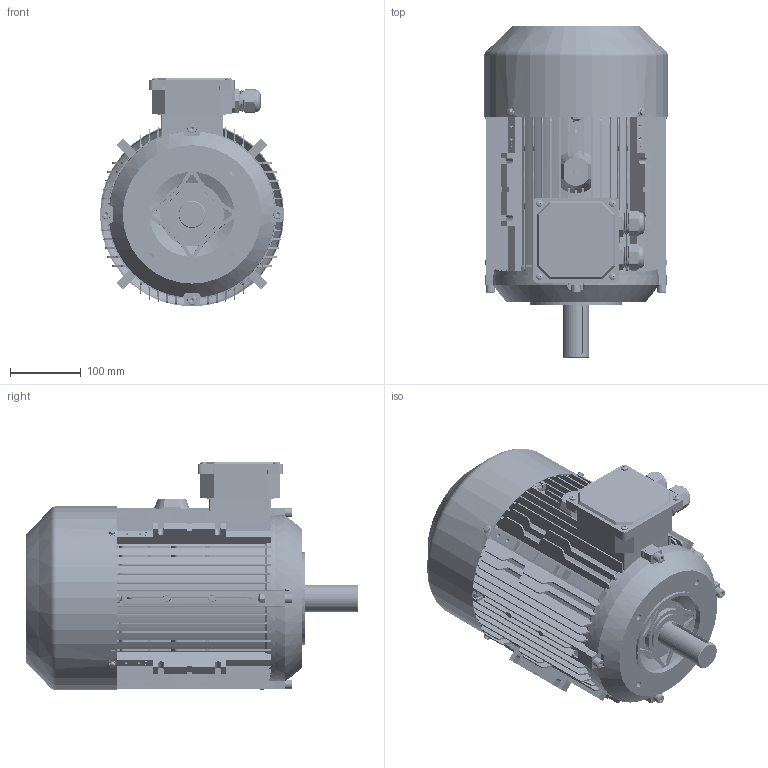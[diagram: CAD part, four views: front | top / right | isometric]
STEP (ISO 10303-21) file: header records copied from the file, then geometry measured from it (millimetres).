
FILE_DESCRIPTION (( 'STEP AP203' ), '1' );
FILE_NAME ('ME3-132S B14 3D.STEP', '2024-07-27T02:17:32', ( 'User' ), ( 'China' ), 'SwSTEP 2.0', 'SolidWorks 2018', '' );
FILE_SCHEMA (( 'CONFIG_CONTROL_DESIGN' ));
Length unit declared in the file: millimetre
Products named in the file (18): hexagon socket head cap screws gb_GB_FASTENER_SCREWS_HSHCS M8X30-S; deep groove ball bearings gb_Rolling bearings 6308 GB 276-94; ME3-132瑞欶; ME3-132S蛌粣; hex flange bolts-heavy grade b gb_GB_FASTENER_BOLT_HFBB M5X10-S; MS112-132 諉盄碟釱; cross recessed pan head screws gb_GB_CROSS_SCREWS_TYPE1 M5X8-8  H type-S; M24 蹟杶; MS112-132諉盄碟裔; M24 蹟杶簸; 40X58X7蚐猾; hexagon socket head cap screws gb_GB_FASTENER_SCREWS_HSHCS M8X40-S; ME3-132B14傷裔; hex nuts-style normal-grades ab gb_GB_HEXAGON_TYPE10 M8X1-S; ME3-132S儂褲; ME3-132S B14   3D; spring lock washers--normal type gb_GB_FASTENER_WASHER_SW 8; ME3-132 B3傷裔
Assembly tree (45 placements, depth 2):
  ME3-132S B14   3D
    ME3-132S儂褲
    ME3-132 B3傷裔
    deep groove ball bearings gb_Rolling bearings 6308 GB 276-94  x2
    ME3-132S蛌粣
    MS112-132 諉盄碟釱
    M24 蹟杶  x2
    M24 蹟杶簸  x2
    hexagon socket head cap screws gb_GB_FASTENER_SCREWS_HSHCS M8X40-S  x7
    hex nuts-style normal-grades ab gb_GB_HEXAGON_TYPE10 M8X1-S  x7
    spring lock washers--normal type gb_GB_FASTENER_WASHER_SW 8  x4
    hexagon socket head cap screws gb_GB_FASTENER_SCREWS_HSHCS M8X30-S
    ME3-132瑞欶
    hex flange bolts-heavy grade b gb_GB_FASTENER_BOLT_HFBB M5X10-S  x4
    cross recessed pan head screws gb_GB_CROSS_SCREWS_TYPE1 M5X8-8  H type-S  x8
    MS112-132諉盄碟裔
    40X58X7蚐猾
    ME3-132B14傷裔
Bounding box: 259.6 x 467.96 x 322.8 mm (x, y, z)
Volume: 3228710.9 mm3; surface area: 1632968.6 mm2
Topology: 47 solids, 48 shells, 6929 faces, 17206 edges, 10333 vertices
Faces by surface type: cone 2439, plane 2276, cylinder 1860, torus 234, sphere 76, bspline 44
Entity records: 133790 total; most frequent: CARTESIAN_POINT 34369, ORIENTED_EDGE 20892, DIRECTION 19303, EDGE_CURVE 10446, VERTEX_POINT 6679, AXIS2_PLACEMENT_3D 6450, LINE 6403, VECTOR 6403
